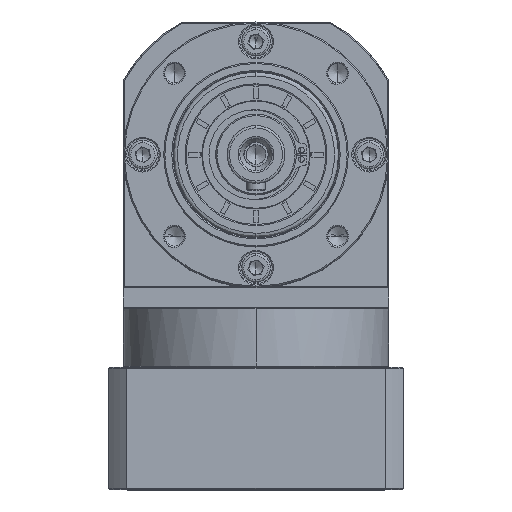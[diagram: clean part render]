
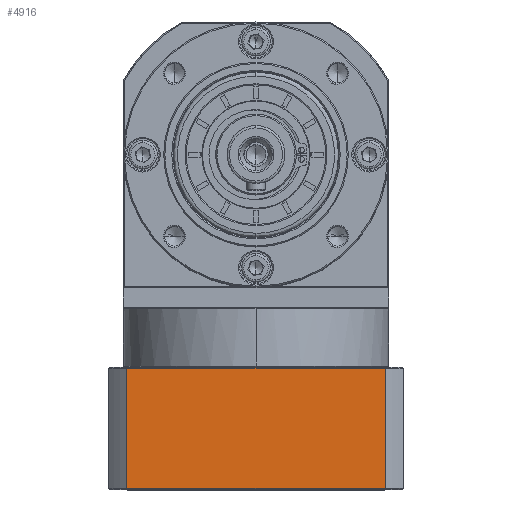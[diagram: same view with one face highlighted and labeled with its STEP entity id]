
A CAD part, top view. The second image highlights one B-rep face of the part: STEP entity #4916.
In plain terms, the highlighted planar face has unit normal (0, 0, 1).
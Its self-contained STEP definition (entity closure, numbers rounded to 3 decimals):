
#2020 = DIRECTION ( 'NONE',  ( 0., 1., 0. ) ) ;
#4916 = ADVANCED_FACE ( 'NONE', ( #89679 ), #74799, .F. ) ;
#7516 = CARTESIAN_POINT ( 'NONE',  ( -304.576, -159.433, 98.47 ) ) ;
#11410 = LINE ( 'NONE', #46588, #127760 ) ;
#14795 = VERTEX_POINT ( 'NONE', #57544 ) ;
#15995 = CARTESIAN_POINT ( 'NONE',  ( -184.639, -107.433, 98.47 ) ) ;
#21026 = EDGE_CURVE ( 'NONE', #14795, #99093, #48271, .T. ) ;
#31856 = CARTESIAN_POINT ( 'NONE',  ( -304.576, -159.933, 98.47 ) ) ;
#35282 = EDGE_CURVE ( 'NONE', #152877, #141791, #11410, .T. ) ;
#37564 = DIRECTION ( 'NONE',  ( -1., 0., 0. ) ) ;
#43826 = VECTOR ( 'NONE', #37564, 1000. ) ;
#46588 = CARTESIAN_POINT ( 'NONE',  ( -304.576, -107.433, 98.47 ) ) ;
#47882 = DIRECTION ( 'NONE',  ( 0., 0., -1. ) ) ;
#48271 = LINE ( 'NONE', #7516, #43826 ) ;
#48909 = LINE ( 'NONE', #57906, #114635 ) ;
#57544 = CARTESIAN_POINT ( 'NONE',  ( -184.639, -159.433, 98.47 ) ) ;
#57906 = CARTESIAN_POINT ( 'NONE',  ( -296.514, -159.933, 98.47 ) ) ;
#60695 = DIRECTION ( 'NONE',  ( -1., 0., 0. ) ) ;
#71153 = LINE ( 'NONE', #111479, #104114 ) ;
#74799 = PLANE ( 'NONE',  #180692 ) ;
#81490 = ORIENTED_EDGE ( 'NONE', *, *, #35282, .F. ) ;
#82722 = ORIENTED_EDGE ( 'NONE', *, *, #147068, .F. ) ;
#89479 = DIRECTION ( 'NONE',  ( 1., 0., 0. ) ) ;
#89679 = FACE_OUTER_BOUND ( 'NONE', #162769, .T. ) ;
#92137 = CARTESIAN_POINT ( 'NONE',  ( -296.514, -107.433, 98.47 ) ) ;
#99093 = VERTEX_POINT ( 'NONE', #111442 ) ;
#104114 = VECTOR ( 'NONE', #155583, 1000. ) ;
#108938 = EDGE_CURVE ( 'NONE', #99093, #152877, #48909, .T. ) ;
#111442 = CARTESIAN_POINT ( 'NONE',  ( -296.514, -159.433, 98.47 ) ) ;
#111479 = CARTESIAN_POINT ( 'NONE',  ( -184.639, 135.888, 98.47 ) ) ;
#114635 = VECTOR ( 'NONE', #2020, 1000. ) ;
#127760 = VECTOR ( 'NONE', #89479, 1000. ) ;
#137250 = ORIENTED_EDGE ( 'NONE', *, *, #108938, .F. ) ;
#141791 = VERTEX_POINT ( 'NONE', #15995 ) ;
#147068 = EDGE_CURVE ( 'NONE', #141791, #14795, #71153, .T. ) ;
#152877 = VERTEX_POINT ( 'NONE', #92137 ) ;
#155583 = DIRECTION ( 'NONE',  ( 0., -1., 0. ) ) ;
#162769 = EDGE_LOOP ( 'NONE', ( #82722, #81490, #137250, #164202 ) ) ;
#164202 = ORIENTED_EDGE ( 'NONE', *, *, #21026, .F. ) ;
#180692 = AXIS2_PLACEMENT_3D ( 'NONE', #31856, #47882, #60695 ) ;
